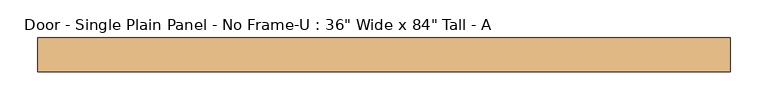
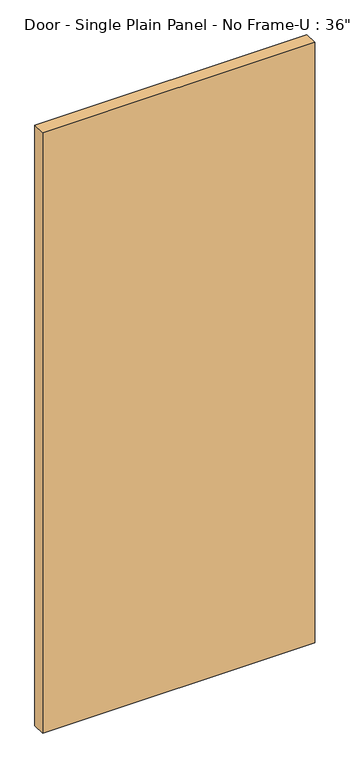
"""IFC4 building model written with IfcOpenShell, lengths in millimetres: door geometry."""

from ifc_helpers import new_model, si_unit, origin, origin_with_axes, place, context, project, spatial, polyline, outline, extrude, source, transform, mapped, element, save


def door_d9ca40e4(model_context):
    return source(origin(), model_context, "Body", "SweptSolid", [
        extrude(outline(polyline([(457.2, 31.75), (-457.2, 31.75), (-457.2, 76.2), (457.2, 76.2), (457.2, 31.75)])), origin_with_axes(), (0.0, 0.0, 1.0), 2133.6),
    ])


if __name__ == "__main__":
    model = new_model("IFC4")
    model_context = context("Model", 3, world=origin())
    ifc_project = project(units=[si_unit("LENGTHUNIT", "METRE", prefix="MILLI")], contexts=[model_context])
    site = spatial("IfcSite", under=ifc_project)
    building = spatial("IfcBuilding", under=site)
    placement = place(None, origin())
    door_shape = door_d9ca40e4(model_context)
    element("IfcDoor", 1, ObjectType="Door - Single Plain Panel - No Frame-U : 36\" Wide x 84\" Tall - A", at=placement, inside=building, context=model_context, shape_type="MappedRepresentation", body=[
        mapped(door_shape, transform((0.0, 0.0, 0.0), x_axis=(1.0, 0.0, 0.0), y_axis=(0.0, 1.0, 0.0), z_axis=(0.0, 0.0, 1.0))),
    ])
    save(model, "model.ifc")
